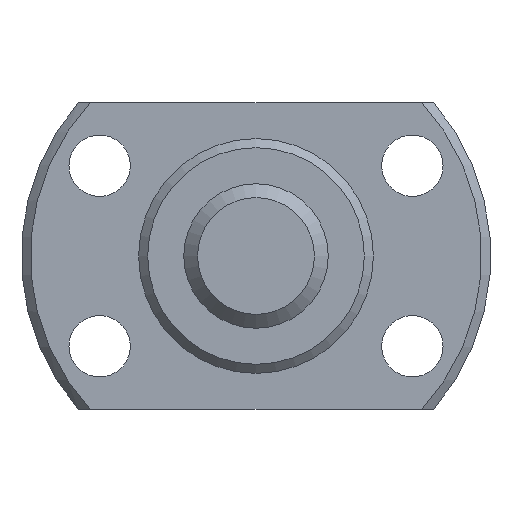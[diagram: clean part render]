
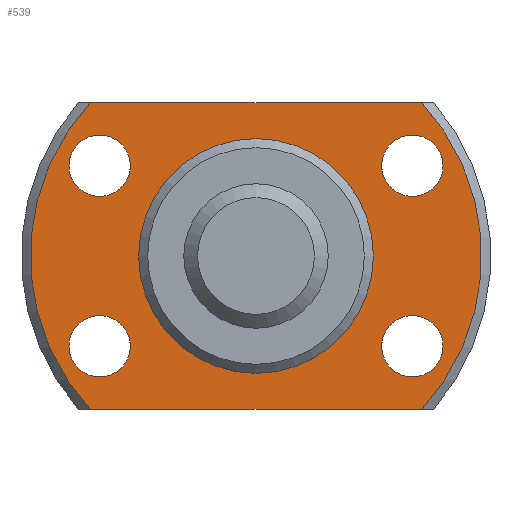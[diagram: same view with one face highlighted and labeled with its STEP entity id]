
A CAD part, left-side view. The second image highlights one B-rep face of the part: STEP entity #539.
In plain terms, the highlighted planar face has unit normal (-1, 0, 0) as drawn and (1, 0, 0) by its records, which use the part's own axes.
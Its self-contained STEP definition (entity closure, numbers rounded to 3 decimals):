
#73=CIRCLE('',#608,12.5);
#88=CIRCLE('',#632,6.3);
#89=CIRCLE('',#634,12.5);
#90=CIRCLE('',#635,1.7);
#91=CIRCLE('',#636,1.7);
#92=CIRCLE('',#637,1.7);
#93=CIRCLE('',#638,1.7);
#176=ORIENTED_EDGE('',*,*,#270,.T.);
#177=ORIENTED_EDGE('',*,*,#248,.T.);
#178=ORIENTED_EDGE('',*,*,#271,.T.);
#179=ORIENTED_EDGE('',*,*,#272,.T.);
#180=ORIENTED_EDGE('',*,*,#273,.F.);
#181=ORIENTED_EDGE('',*,*,#274,.F.);
#182=ORIENTED_EDGE('',*,*,#275,.F.);
#183=ORIENTED_EDGE('',*,*,#276,.F.);
#184=ORIENTED_EDGE('',*,*,#269,.F.);
#248=EDGE_CURVE('',#303,#305,#73,.T.);
#269=EDGE_CURVE('',#324,#324,#88,.T.);
#270=EDGE_CURVE('',#325,#303,#347,.T.);
#271=EDGE_CURVE('',#305,#326,#348,.T.);
#272=EDGE_CURVE('',#326,#325,#89,.T.);
#273=EDGE_CURVE('',#327,#327,#90,.T.);
#274=EDGE_CURVE('',#328,#328,#91,.T.);
#275=EDGE_CURVE('',#329,#329,#92,.T.);
#276=EDGE_CURVE('',#330,#330,#93,.T.);
#303=VERTEX_POINT('',#886);
#305=VERTEX_POINT('',#893);
#324=VERTEX_POINT('',#949);
#325=VERTEX_POINT('',#952);
#326=VERTEX_POINT('',#954);
#327=VERTEX_POINT('',#957);
#328=VERTEX_POINT('',#959);
#329=VERTEX_POINT('',#961);
#330=VERTEX_POINT('',#963);
#347=LINE('',#951,#365);
#348=LINE('',#953,#366);
#365=VECTOR('',#784,1000.);
#366=VECTOR('',#785,1000.);
#414=EDGE_LOOP('',(#176,#177,#178,#179));
#415=EDGE_LOOP('',(#180));
#416=EDGE_LOOP('',(#181));
#417=EDGE_LOOP('',(#182));
#418=EDGE_LOOP('',(#183));
#419=EDGE_LOOP('',(#184));
#478=FACE_BOUND('',#414,.T.);
#479=FACE_BOUND('',#415,.T.);
#480=FACE_BOUND('',#416,.T.);
#481=FACE_BOUND('',#417,.T.);
#482=FACE_BOUND('',#418,.T.);
#483=FACE_BOUND('',#419,.T.);
#510=PLANE('',#633);
#539=ADVANCED_FACE('',(#478,#479,#480,#481,#482,#483),#510,.T.);
#608=AXIS2_PLACEMENT_3D('',#894,#728,#729);
#632=AXIS2_PLACEMENT_3D('',#948,#780,#781);
#633=AXIS2_PLACEMENT_3D('',#950,#782,#783);
#634=AXIS2_PLACEMENT_3D('',#955,#786,#787);
#635=AXIS2_PLACEMENT_3D('',#956,#788,#789);
#636=AXIS2_PLACEMENT_3D('',#958,#790,#791);
#637=AXIS2_PLACEMENT_3D('',#960,#792,#793);
#638=AXIS2_PLACEMENT_3D('',#962,#794,#795);
#728=DIRECTION('',(1.,0.,0.));
#729=DIRECTION('',(0.,0.,-1.));
#780=DIRECTION('',(1.,0.,0.));
#781=DIRECTION('',(0.,0.,-1.));
#782=DIRECTION('',(1.,0.,0.));
#783=DIRECTION('',(0.,0.,-1.));
#784=DIRECTION('',(0.,-1.,0.));
#785=DIRECTION('',(0.,1.,0.));
#786=DIRECTION('',(1.,0.,0.));
#787=DIRECTION('',(0.,0.,-1.));
#788=DIRECTION('',(1.,0.,0.));
#789=DIRECTION('',(0.,0.,-1.));
#790=DIRECTION('',(1.,0.,0.));
#791=DIRECTION('',(0.,0.,-1.));
#792=DIRECTION('',(1.,0.,0.));
#793=DIRECTION('',(0.,0.,-1.));
#794=DIRECTION('',(1.,0.,0.));
#795=DIRECTION('',(0.,0.,-1.));
#886=CARTESIAN_POINT('',(4.,-9.165,8.5));
#893=CARTESIAN_POINT('',(4.,-9.165,-8.5));
#894=CARTESIAN_POINT('',(4.,0.,0.));
#948=CARTESIAN_POINT('',(4.,0.,0.));
#949=CARTESIAN_POINT('',(4.,0.,-6.3));
#950=CARTESIAN_POINT('',(4.,6.3,0.));
#951=CARTESIAN_POINT('',(4.,13.,8.5));
#952=CARTESIAN_POINT('',(4.,9.165,8.5));
#953=CARTESIAN_POINT('',(4.,-13.,-8.5));
#954=CARTESIAN_POINT('',(4.,9.165,-8.5));
#955=CARTESIAN_POINT('',(4.,0.,0.));
#956=CARTESIAN_POINT('',(4.,8.66,5.));
#957=CARTESIAN_POINT('',(4.,8.66,3.3));
#958=CARTESIAN_POINT('',(4.,-8.66,5.));
#959=CARTESIAN_POINT('',(4.,-8.66,3.3));
#960=CARTESIAN_POINT('',(4.,-8.66,-5.));
#961=CARTESIAN_POINT('',(4.,-8.66,-6.7));
#962=CARTESIAN_POINT('',(4.,8.66,-5.));
#963=CARTESIAN_POINT('',(4.,8.66,-6.7));
